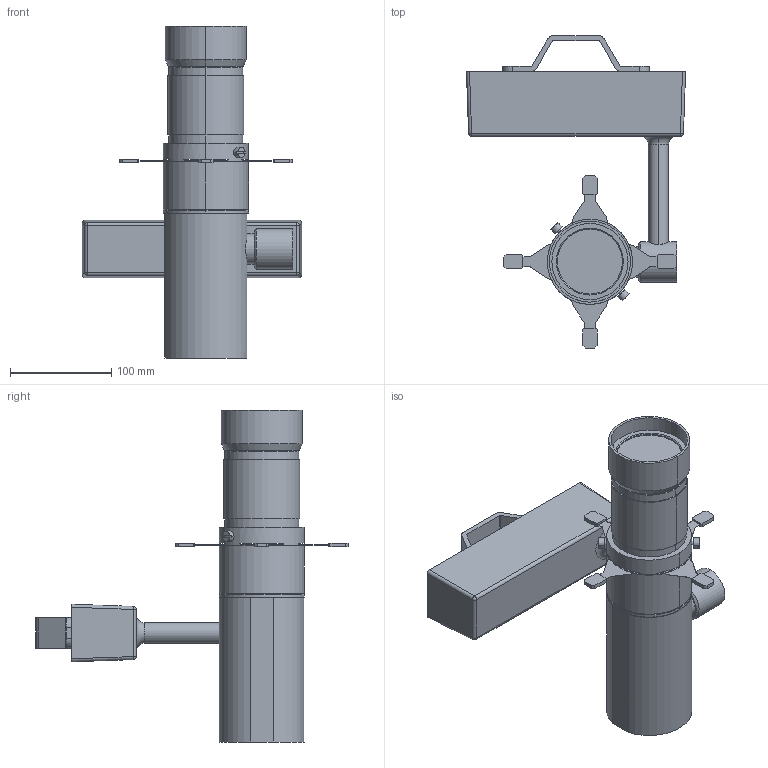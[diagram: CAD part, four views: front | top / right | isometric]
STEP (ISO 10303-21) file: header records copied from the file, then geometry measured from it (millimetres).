
FILE_DESCRIPTION (( 'STEP AP203' ), '1' );
FILE_NAME ('P1L (Clamp_Top Mount_W)_Hanging+19D_10-06-2026.STEP', '2026-06-11T01:17:22', ( '' ), ( '' ), 'SwSTEP 2.0', 'SolidWorks 2014', '' );
FILE_SCHEMA (( 'CONFIG_CONTROL_DESIGN' ));
Length unit declared in the file: millimetre
Products named in the file (4): P1L (Clamp_Top Mount_W)_Hanging+19D_10-06-2026; Top Mount_Yoke+PSU_(Clamp_W); P1L - Light Body_W; 19D_Fresnel Lens_P1L_W
Assembly tree (3 placements, depth 2):
  P1L (Clamp_Top Mount_W)_Hanging+19D_10-06-2026
    Top Mount_Yoke+PSU_(Clamp_W)
    P1L - Light Body_W
    19D_Fresnel Lens_P1L_W
Bounding box: 216.17 x 308.16 x 327.5 mm (x, y, z)
Volume: 2477031.7 mm3; surface area: 208021.3 mm2
Topology: 3 solids, 3 shells, 281 faces, 735 edges, 470 vertices
Faces by surface type: plane 168, cylinder 91, cone 16, sphere 4, torus 2
Entity records: 9235 total; most frequent: CARTESIAN_POINT 1750, DIRECTION 1517, ORIENTED_EDGE 1462, EDGE_CURVE 731, AXIS2_PLACEMENT_3D 513, VECTOR 491, LINE 491, VERTEX_POINT 470
